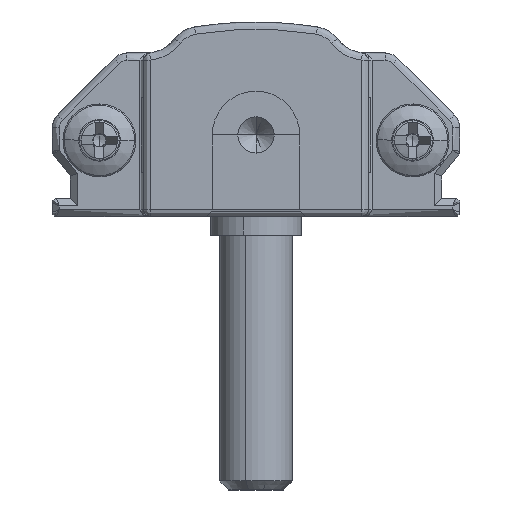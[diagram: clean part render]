
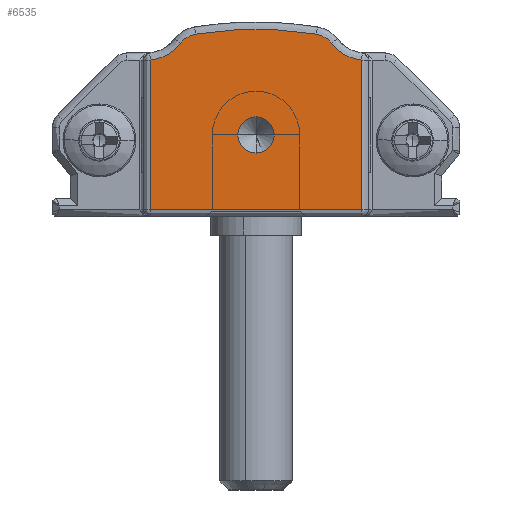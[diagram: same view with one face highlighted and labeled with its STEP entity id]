
A CAD part, front view. The second image highlights one B-rep face of the part: STEP entity #6535.
In plain terms, the highlighted planar face has unit normal (0, -1, 0).
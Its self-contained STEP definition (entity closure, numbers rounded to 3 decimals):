
#408 = CARTESIAN_POINT ( 'NONE',  ( 11.2, -15., 5.5 ) ) ;
#795 = DIRECTION ( 'NONE',  ( 0., 0., -1. ) ) ;
#1029 = AXIS2_PLACEMENT_3D ( 'NONE', #14000, #9199, #19335 ) ;
#1458 = CIRCLE ( 'NONE', #19996, 2.4 ) ;
#1633 = LINE ( 'NONE', #32706, #22055 ) ;
#2084 = VERTEX_POINT ( 'NONE', #13570 ) ;
#2235 = VERTEX_POINT ( 'NONE', #7175 ) ;
#2449 = CARTESIAN_POINT ( 'NONE',  ( 17., -15., 0.4 ) ) ;
#2512 = DIRECTION ( 'NONE',  ( 0., 0., -1. ) ) ;
#2885 = CARTESIAN_POINT ( 'NONE',  ( 7.068, -15., 9.541 ) ) ;
#4357 = EDGE_CURVE ( 'NONE', #2084, #7646, #4586, .T. ) ;
#4418 = LINE ( 'NONE', #24838, #7387 ) ;
#4543 = EDGE_LOOP ( 'NONE', ( #6246, #5436 ) ) ;
#4586 = CIRCLE ( 'NONE', #32711, 1. ) ;
#4636 = CARTESIAN_POINT ( 'NONE',  ( 14.508, -15., 10.034 ) ) ;
#4810 = AXIS2_PLACEMENT_3D ( 'NONE', #18914, #29056, #6293 ) ;
#5293 = ORIENTED_EDGE ( 'NONE', *, *, #17903, .T. ) ;
#5318 = CIRCLE ( 'NONE', #12220, 1.3 ) ;
#5436 = ORIENTED_EDGE ( 'NONE', *, *, #26856, .F. ) ;
#5711 = EDGE_CURVE ( 'NONE', #12056, #27065, #5318, .T. ) ;
#5745 = DIRECTION ( 'NONE',  ( 0., 0., -1. ) ) ;
#6246 = ORIENTED_EDGE ( 'NONE', *, *, #4357, .F. ) ;
#6293 = DIRECTION ( 'NONE',  ( 0., 0., -1. ) ) ;
#6403 = DIRECTION ( 'NONE',  ( 0., 1., 0. ) ) ;
#6535 = ADVANCED_FACE ( 'NONE', ( #19400, #6798 ), #11607, .T. ) ;
#6798 = FACE_BOUND ( 'NONE', #4543, .T. ) ;
#7175 = CARTESIAN_POINT ( 'NONE',  ( 5.4, -15., 0.4 ) ) ;
#7387 = VECTOR ( 'NONE', #11549, 1000. ) ;
#7502 = DIRECTION ( 'NONE',  ( 0., 1., 0. ) ) ;
#7646 = VERTEX_POINT ( 'NONE', #408 ) ;
#8882 = DIRECTION ( 'NONE',  ( 0., 0., -1. ) ) ;
#9199 = DIRECTION ( 'NONE',  ( 0., -1., 0. ) ) ;
#9741 = CARTESIAN_POINT ( 'NONE',  ( 15.332, -15., 9.541 ) ) ;
#10095 = CIRCLE ( 'NONE', #25527, 20.676 ) ;
#10498 = VERTEX_POINT ( 'NONE', #25164 ) ;
#10499 = CARTESIAN_POINT ( 'NONE',  ( 8.1, -15., 8.75 ) ) ;
#11221 = CIRCLE ( 'NONE', #27696, 1.3 ) ;
#11549 = DIRECTION ( 'NONE',  ( 0., 0., -1. ) ) ;
#11607 = PLANE ( 'NONE',  #4810 ) ;
#11639 = VERTEX_POINT ( 'NONE', #9741 ) ;
#12056 = VERTEX_POINT ( 'NONE', #30632 ) ;
#12220 = AXIS2_PLACEMENT_3D ( 'NONE', #10499, #14997, #30309 ) ;
#13455 = CARTESIAN_POINT ( 'NONE',  ( 11.2, -15., 4.5 ) ) ;
#13517 = CARTESIAN_POINT ( 'NONE',  ( 11.2, -15., -10.376 ) ) ;
#13551 = VERTEX_POINT ( 'NONE', #22519 ) ;
#13570 = CARTESIAN_POINT ( 'NONE',  ( 11.2, -15., 3.5 ) ) ;
#13709 = VERTEX_POINT ( 'NONE', #24023 ) ;
#13886 = DIRECTION ( 'NONE',  ( 0., -1., 0. ) ) ;
#14000 = CARTESIAN_POINT ( 'NONE',  ( 11.2, -15., 4.5 ) ) ;
#14245 = EDGE_CURVE ( 'NONE', #2235, #10498, #14875, .T. ) ;
#14875 = LINE ( 'NONE', #2449, #24523 ) ;
#14997 = DIRECTION ( 'NONE',  ( 0., -1., 0. ) ) ;
#15253 = CIRCLE ( 'NONE', #25906, 2.4 ) ;
#15597 = DIRECTION ( 'NONE',  ( 0., -1., 0. ) ) ;
#16225 = CARTESIAN_POINT ( 'NONE',  ( 14.3, -15., 8.75 ) ) ;
#16682 = CARTESIAN_POINT ( 'NONE',  ( 17.238, -15., 11. ) ) ;
#17815 = ORIENTED_EDGE ( 'NONE', *, *, #14245, .T. ) ;
#17903 = EDGE_CURVE ( 'NONE', #13551, #11639, #1458, .T. ) ;
#18165 = ORIENTED_EDGE ( 'NONE', *, *, #18575, .T. ) ;
#18309 = EDGE_CURVE ( 'NONE', #27065, #13709, #15253, .T. ) ;
#18500 = DIRECTION ( 'NONE',  ( 0., -1., 0. ) ) ;
#18510 = CIRCLE ( 'NONE', #1029, 1. ) ;
#18575 = EDGE_CURVE ( 'NONE', #13709, #2235, #4418, .T. ) ;
#18777 = DIRECTION ( 'NONE',  ( 0., 0., -1. ) ) ;
#18914 = CARTESIAN_POINT ( 'NONE',  ( 22.15, -15., 3.606 ) ) ;
#19335 = DIRECTION ( 'NONE',  ( 0., 0., -1. ) ) ;
#19400 = FACE_OUTER_BOUND ( 'NONE', #29513, .T. ) ;
#19996 = AXIS2_PLACEMENT_3D ( 'NONE', #16682, #6403, #8882 ) ;
#22008 = ORIENTED_EDGE ( 'NONE', *, *, #18309, .T. ) ;
#22055 = VECTOR ( 'NONE', #27398, 1000. ) ;
#22266 = EDGE_CURVE ( 'NONE', #10498, #13551, #1633, .T. ) ;
#22519 = CARTESIAN_POINT ( 'NONE',  ( 17., -15., 8.612 ) ) ;
#23143 = VERTEX_POINT ( 'NONE', #4636 ) ;
#24023 = CARTESIAN_POINT ( 'NONE',  ( 5.4, -15., 8.612 ) ) ;
#24523 = VECTOR ( 'NONE', #30513, 1000. ) ;
#24838 = CARTESIAN_POINT ( 'NONE',  ( 5.4, -15., 0.4 ) ) ;
#24919 = ORIENTED_EDGE ( 'NONE', *, *, #5711, .T. ) ;
#25164 = CARTESIAN_POINT ( 'NONE',  ( 17., -15., 0.4 ) ) ;
#25527 = AXIS2_PLACEMENT_3D ( 'NONE', #13517, #18500, #5745 ) ;
#25897 = ORIENTED_EDGE ( 'NONE', *, *, #22266, .T. ) ;
#25906 = AXIS2_PLACEMENT_3D ( 'NONE', #30245, #7502, #2512 ) ;
#26856 = EDGE_CURVE ( 'NONE', #7646, #2084, #18510, .T. ) ;
#27065 = VERTEX_POINT ( 'NONE', #2885 ) ;
#27398 = DIRECTION ( 'NONE',  ( 0., 0., 1. ) ) ;
#27696 = AXIS2_PLACEMENT_3D ( 'NONE', #16225, #13886, #795 ) ;
#27734 = EDGE_CURVE ( 'NONE', #23143, #12056, #10095, .T. ) ;
#29056 = DIRECTION ( 'NONE',  ( 0., -1., 0. ) ) ;
#29324 = ORIENTED_EDGE ( 'NONE', *, *, #27734, .T. ) ;
#29513 = EDGE_LOOP ( 'NONE', ( #25897, #5293, #30488, #29324, #24919, #22008, #18165, #17815 ) ) ;
#30245 = CARTESIAN_POINT ( 'NONE',  ( 5.162, -15., 11. ) ) ;
#30309 = DIRECTION ( 'NONE',  ( 0., 0., -1. ) ) ;
#30488 = ORIENTED_EDGE ( 'NONE', *, *, #31899, .T. ) ;
#30513 = DIRECTION ( 'NONE',  ( 1., 0., 0. ) ) ;
#30632 = CARTESIAN_POINT ( 'NONE',  ( 7.892, -15., 10.034 ) ) ;
#31899 = EDGE_CURVE ( 'NONE', #11639, #23143, #11221, .T. ) ;
#32706 = CARTESIAN_POINT ( 'NONE',  ( 17., -15., 8.612 ) ) ;
#32711 = AXIS2_PLACEMENT_3D ( 'NONE', #13455, #15597, #18777 ) ;
